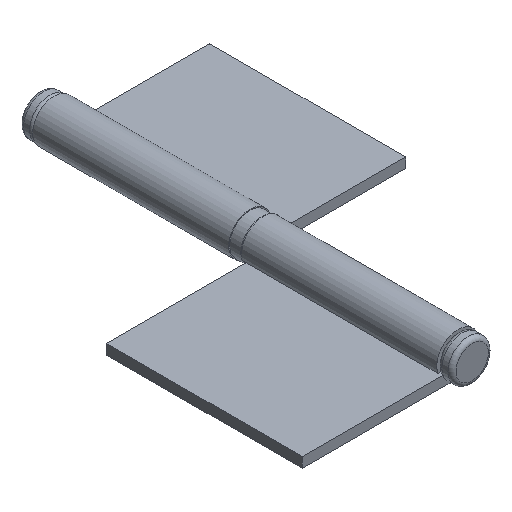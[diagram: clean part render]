
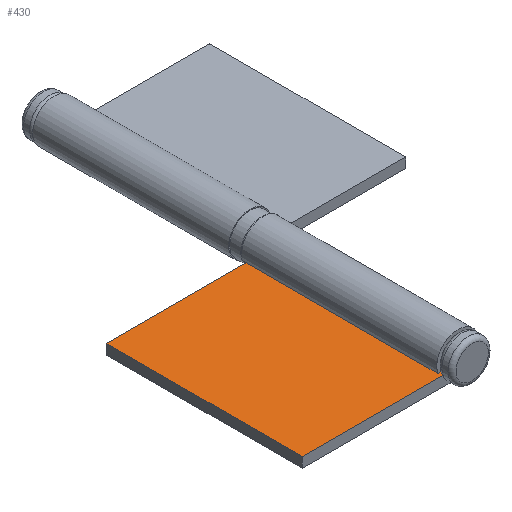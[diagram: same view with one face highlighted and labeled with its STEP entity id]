
A CAD part, isometric view. The second image highlights one B-rep face of the part: STEP entity #430.
In plain terms, the highlighted planar face has unit normal (0, 0, 1) as drawn and (0, 1, 0) by its records, which use the part's own axes.
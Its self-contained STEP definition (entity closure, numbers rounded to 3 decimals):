
#84=FACE_OUTER_BOUND('',#117,.T.);
#117=EDGE_LOOP('',(#312,#313,#314,#315));
#163=LINE('',#684,#191);
#166=LINE('',#690,#194);
#167=LINE('',#692,#195);
#168=LINE('',#693,#196);
#191=VECTOR('',#533,48.5);
#194=VECTOR('',#538,38.5);
#195=VECTOR('',#539,48.5);
#196=VECTOR('',#540,38.5);
#219=VERTEX_POINT('',#681);
#220=VERTEX_POINT('',#683);
#222=VERTEX_POINT('',#689);
#223=VERTEX_POINT('',#691);
#258=EDGE_CURVE('',#220,#219,#163,.T.);
#261=EDGE_CURVE('',#219,#222,#166,.T.);
#262=EDGE_CURVE('',#223,#222,#167,.T.);
#263=EDGE_CURVE('',#220,#223,#168,.T.);
#312=ORIENTED_EDGE('',*,*,#261,.T.);
#313=ORIENTED_EDGE('',*,*,#262,.F.);
#314=ORIENTED_EDGE('',*,*,#263,.F.);
#315=ORIENTED_EDGE('',*,*,#258,.T.);
#411=PLANE('',#469);
#430=ADVANCED_FACE('',(#84),#411,.T.);
#469=AXIS2_PLACEMENT_3D('',#688,#536,#537);
#533=DIRECTION('',(0.,0.,1.));
#536=DIRECTION('center_axis',(0.,1.,0.));
#537=DIRECTION('ref_axis',(0.,0.,1.));
#538=DIRECTION('',(1.,0.,0.));
#539=DIRECTION('',(0.,0.,1.));
#540=DIRECTION('',(1.,0.,0.));
#681=CARTESIAN_POINT('',(-38.5,2.5,48.5));
#683=CARTESIAN_POINT('',(-38.5,2.5,0.));
#684=CARTESIAN_POINT('',(-38.5,2.5,0.));
#688=CARTESIAN_POINT('Origin',(-38.5,2.5,0.));
#689=CARTESIAN_POINT('',(0.,2.5,48.5));
#690=CARTESIAN_POINT('',(-38.5,2.5,48.5));
#691=CARTESIAN_POINT('',(0.,2.5,0.));
#692=CARTESIAN_POINT('',(0.,2.5,0.));
#693=CARTESIAN_POINT('',(-38.5,2.5,0.));
